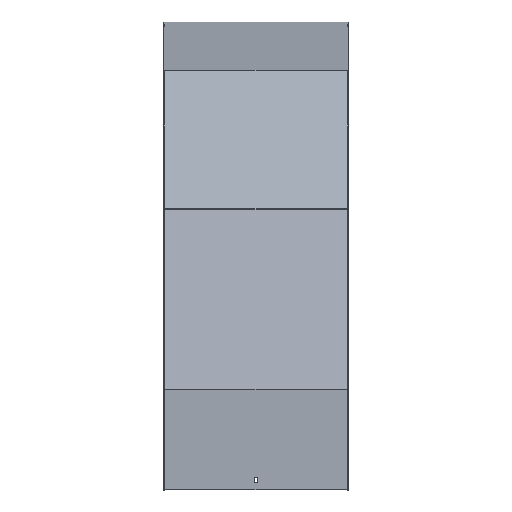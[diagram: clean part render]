
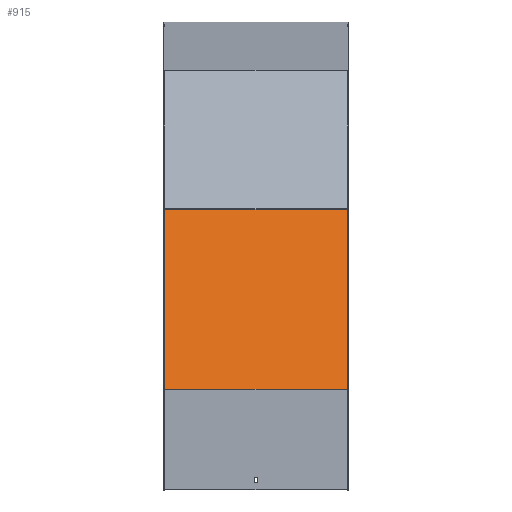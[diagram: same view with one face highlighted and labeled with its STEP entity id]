
A CAD part, top view. The second image highlights one B-rep face of the part: STEP entity #915.
In plain terms, the highlighted planar face has unit normal (0, 0.259, 0.966).
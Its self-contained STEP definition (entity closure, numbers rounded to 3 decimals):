
#18 = LINE ( 'NONE', #1043, #400 ) ;
#80 = FACE_OUTER_BOUND ( 'NONE', #206, .T. ) ;
#118 = DIRECTION ( 'NONE',  ( -1., 0., 0. ) ) ;
#121 = CARTESIAN_POINT ( 'NONE',  ( -151.5, -287.651, 690.361 ) ) ;
#132 = EDGE_CURVE ( 'NONE', #1017, #343, #414, .T. ) ;
#159 = DIRECTION ( 'NONE',  ( 0., 0.966, -0.259 ) ) ;
#182 = LINE ( 'NONE', #1065, #680 ) ;
#206 = EDGE_LOOP ( 'NONE', ( #1028, #296, #595, #518 ) ) ;
#210 = LINE ( 'NONE', #819, #696 ) ;
#218 = CARTESIAN_POINT ( 'NONE',  ( 151.5, -584.183, 769.816 ) ) ;
#236 = DIRECTION ( 'NONE',  ( -1., 0., 0. ) ) ;
#252 = CARTESIAN_POINT ( 'NONE',  ( 151.5, -292.828, 691.748 ) ) ;
#296 = ORIENTED_EDGE ( 'NONE', *, *, #947, .F. ) ;
#343 = VERTEX_POINT ( 'NONE', #121 ) ;
#345 = EDGE_CURVE ( 'NONE', #1017, #473, #210, .T. ) ;
#347 = PLANE ( 'NONE',  #920 ) ;
#365 = CARTESIAN_POINT ( 'NONE',  ( -151.5, -584.183, 769.816 ) ) ;
#400 = VECTOR ( 'NONE', #118, 1000. ) ;
#414 = LINE ( 'NONE', #685, #676 ) ;
#473 = VERTEX_POINT ( 'NONE', #218 ) ;
#518 = ORIENTED_EDGE ( 'NONE', *, *, #132, .T. ) ;
#525 = DIRECTION ( 'NONE',  ( 0., -0.259, -0.966 ) ) ;
#595 = ORIENTED_EDGE ( 'NONE', *, *, #345, .F. ) ;
#657 = DIRECTION ( 'NONE',  ( 0., -0.966, 0.259 ) ) ;
#676 = VECTOR ( 'NONE', #236, 1000. ) ;
#680 = VECTOR ( 'NONE', #1038, 1000. ) ;
#685 = CARTESIAN_POINT ( 'NONE',  ( 151.5, -287.651, 690.361 ) ) ;
#696 = VECTOR ( 'NONE', #657, 1000. ) ;
#712 = CARTESIAN_POINT ( 'NONE',  ( 151.5, -287.651, 690.361 ) ) ;
#819 = CARTESIAN_POINT ( 'NONE',  ( 151.5, -292.828, 691.748 ) ) ;
#915 = ADVANCED_FACE ( 'NONE', ( #80 ), #347, .F. ) ;
#920 = AXIS2_PLACEMENT_3D ( 'NONE', #252, #525, #159 ) ;
#947 = EDGE_CURVE ( 'NONE', #473, #969, #18, .T. ) ;
#969 = VERTEX_POINT ( 'NONE', #365 ) ;
#1017 = VERTEX_POINT ( 'NONE', #712 ) ;
#1028 = ORIENTED_EDGE ( 'NONE', *, *, #1046, .T. ) ;
#1038 = DIRECTION ( 'NONE',  ( 0., -0.966, 0.259 ) ) ;
#1043 = CARTESIAN_POINT ( 'NONE',  ( 151.5, -584.183, 769.816 ) ) ;
#1046 = EDGE_CURVE ( 'NONE', #343, #969, #182, .T. ) ;
#1065 = CARTESIAN_POINT ( 'NONE',  ( -151.5, -292.828, 691.748 ) ) ;
